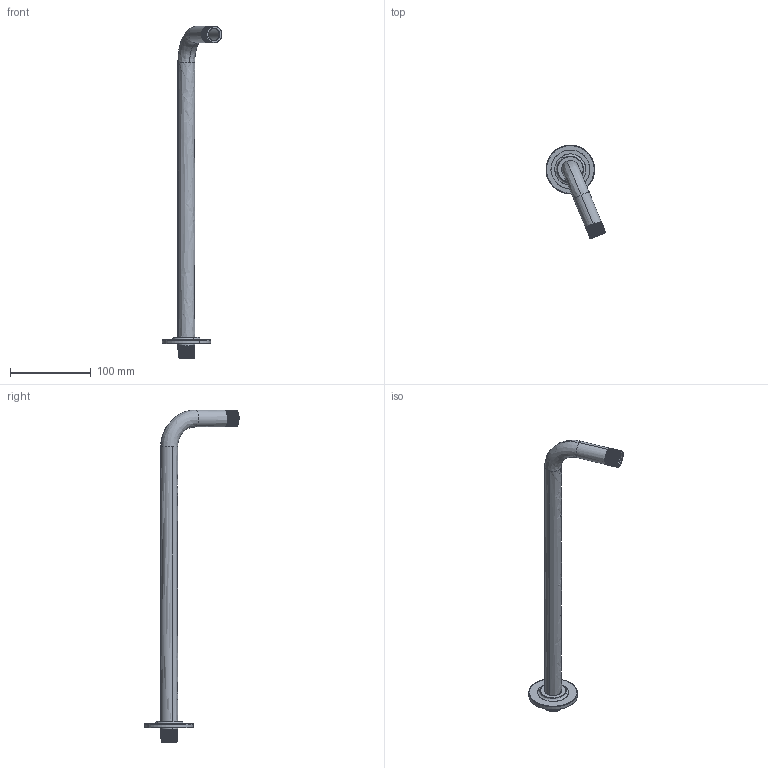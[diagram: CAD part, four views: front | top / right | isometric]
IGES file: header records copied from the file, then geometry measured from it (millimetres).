
Start section: SolidWorks IGES file using analytic representation for surfaces
Global section: file name: C:\Users\ccai\Desktop\CeliaC\Projects\0731-ADHOC-02292 Netural Files\sku_R581SERIES_\sku_R581SERIES_igs.IGS; native system: SolidWorks 2023; preprocessor: SolidWorks 2023; author: ccai; date: 240722.104628; units: millimetre
Bounding box: 73.96 x 116.41 x 410.5 mm (x, y, z)
Surface area: 66521.8 mm2 (no closed solid volume)
Topology: 0 solids, 0 shells, 104 faces, 2594 edges, 2587 vertices
Faces by surface type: revolution 70, bspline 34
